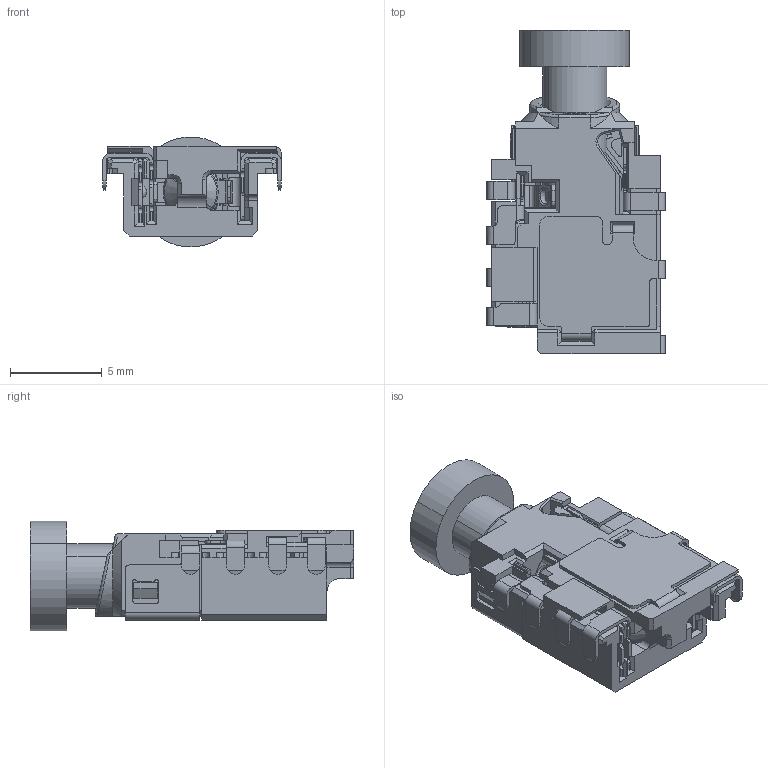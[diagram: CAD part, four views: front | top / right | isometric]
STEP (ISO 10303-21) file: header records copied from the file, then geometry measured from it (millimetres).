
FILE_DESCRIPTION((''),'2;1');
FILE_NAME('ASM0004_ASM','2022-05-13T',('A'),(''),'PRO/ENGINEER BY PARAMETRIC TECHNOLOGY CORPORATION, 2011310','PRO/ENGINEER BY PARAMETRIC TECHNOLOGY CORPORATION, 2011310','');
FILE_SCHEMA(('CONFIG_CONTROL_DESIGN'));
Length unit declared in the file: millimetre
Products named in the file (14): PRT0017; PRT0018; PRT0019; PRT0020; PRT0021; PRT0022; PRT0023; PRT0024; PRT0025; PRT0026; ASM0006_ASM; PRT0028; ASM0005_ASM; ASM0004_ASM
Assembly tree (13 placements, depth 4):
  ASM0004_ASM
    ASM0005_ASM
      ASM0006_ASM
        PRT0017
        PRT0018
        PRT0019
        PRT0020
        PRT0021
        PRT0022
        PRT0023
        PRT0024
        PRT0025
        PRT0026
      PRT0028
Bounding box: 9.75 x 17.65 x 5.99 mm (x, y, z)
Volume: 457.7 mm3; surface area: 1358.7 mm2
Topology: 11 solids, 11 shells, 1130 faces, 3253 edges, 2148 vertices
Faces by surface type: plane 695, cylinder 346, bspline 41, cone 21, torus 19, extrusion 4, sphere 4
Entity records: 39612 total; most frequent: CARTESIAN_POINT 9703, ORIENTED_EDGE 6372, DIRECTION 5956, EDGE_CURVE 3186, VECTOR 2236, LINE 2232, VERTEX_POINT 2082, AXIS2_PLACEMENT_3D 1860
